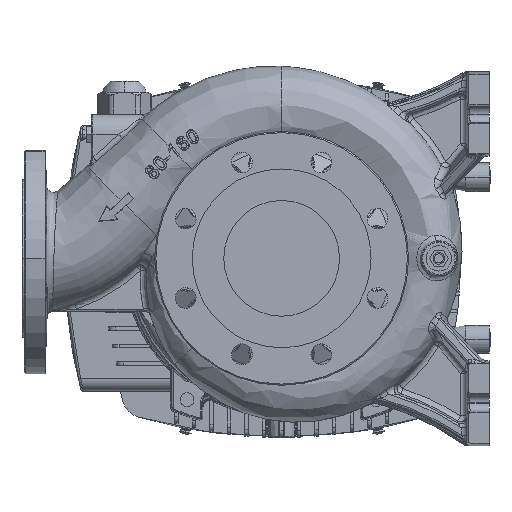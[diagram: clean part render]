
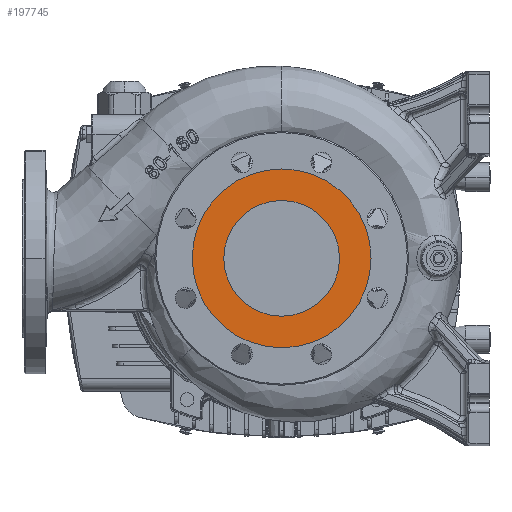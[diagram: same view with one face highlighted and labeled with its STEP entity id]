
A CAD part, left-side view. The second image highlights one B-rep face of the part: STEP entity #197745.
In plain terms, the highlighted planar face has unit normal (-1, 0, 0).
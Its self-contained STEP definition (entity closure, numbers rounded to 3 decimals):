
#2649 = CIRCLE ( 'NONE', #23600, 50.119 ) ;
#21930 = AXIS2_PLACEMENT_3D ( 'NONE', #107486, #211628, #24165 ) ;
#23600 = AXIS2_PLACEMENT_3D ( 'NONE', #81738, #199057, #166095 ) ;
#24165 = DIRECTION ( 'NONE',  ( 0., 0., 1. ) ) ;
#32162 = CIRCLE ( 'NONE', #182719, 50.119 ) ;
#49983 = CIRCLE ( 'NONE', #21930, 77.5 ) ;
#54991 = DIRECTION ( 'NONE',  ( -1., 0., 0. ) ) ;
#64912 = DIRECTION ( 'NONE',  ( 1., 0., 0. ) ) ;
#65551 = VERTEX_POINT ( 'NONE', #98644 ) ;
#65605 = ORIENTED_EDGE ( 'NONE', *, *, #169940, .F. ) ;
#68114 = CARTESIAN_POINT ( 'NONE',  ( -295.5, 0., 0. ) ) ;
#70566 = ORIENTED_EDGE ( 'NONE', *, *, #173688, .F. ) ;
#78325 = CARTESIAN_POINT ( 'NONE',  ( -295.5, 0., -50.119 ) ) ;
#81738 = CARTESIAN_POINT ( 'NONE',  ( -295.5, 0., 0. ) ) ;
#87872 = CARTESIAN_POINT ( 'NONE',  ( -295.5, 0., 0. ) ) ;
#91308 = FACE_OUTER_BOUND ( 'NONE', #191393, .T. ) ;
#98085 = AXIS2_PLACEMENT_3D ( 'NONE', #68114, #64912, #131770 ) ;
#98644 = CARTESIAN_POINT ( 'NONE',  ( -295.5, 0., 50.119 ) ) ;
#102488 = VERTEX_POINT ( 'NONE', #78325 ) ;
#107486 = CARTESIAN_POINT ( 'NONE',  ( -295.5, 0., 0. ) ) ;
#121435 = EDGE_CURVE ( 'NONE', #65551, #102488, #2649, .T. ) ;
#121845 = DIRECTION ( 'NONE',  ( 0., 0., 1. ) ) ;
#131770 = DIRECTION ( 'NONE',  ( 0., 0., -1. ) ) ;
#144855 = CARTESIAN_POINT ( 'NONE',  ( -295.5, 0., -77.5 ) ) ;
#152403 = CIRCLE ( 'NONE', #198010, 77.5 ) ;
#157018 = ORIENTED_EDGE ( 'NONE', *, *, #163689, .F. ) ;
#158140 = FACE_BOUND ( 'NONE', #199166, .T. ) ;
#163689 = EDGE_CURVE ( 'NONE', #186036, #169218, #152403, .T. ) ;
#166095 = DIRECTION ( 'NONE',  ( 0., 0., 1. ) ) ;
#169218 = VERTEX_POINT ( 'NONE', #216262 ) ;
#169940 = EDGE_CURVE ( 'NONE', #102488, #65551, #32162, .T. ) ;
#170624 = DIRECTION ( 'NONE',  ( 1., 0., 0. ) ) ;
#173688 = EDGE_CURVE ( 'NONE', #169218, #186036, #49983, .T. ) ;
#182199 = PLANE ( 'NONE',  #98085 ) ;
#182719 = AXIS2_PLACEMENT_3D ( 'NONE', #87872, #54991, #121845 ) ;
#186036 = VERTEX_POINT ( 'NONE', #144855 ) ;
#191393 = EDGE_LOOP ( 'NONE', ( #157018, #70566 ) ) ;
#197745 = ADVANCED_FACE ( 'NONE', ( #91308, #158140 ), #182199, .F. ) ;
#198010 = AXIS2_PLACEMENT_3D ( 'NONE', #204645, #170624, #205741 ) ;
#199057 = DIRECTION ( 'NONE',  ( -1., 0., 0. ) ) ;
#199166 = EDGE_LOOP ( 'NONE', ( #213357, #65605 ) ) ;
#204645 = CARTESIAN_POINT ( 'NONE',  ( -295.5, 0., 0. ) ) ;
#205741 = DIRECTION ( 'NONE',  ( 0., 0., 1. ) ) ;
#211628 = DIRECTION ( 'NONE',  ( 1., 0., 0. ) ) ;
#213357 = ORIENTED_EDGE ( 'NONE', *, *, #121435, .F. ) ;
#216262 = CARTESIAN_POINT ( 'NONE',  ( -295.5, 0., 77.5 ) ) ;
